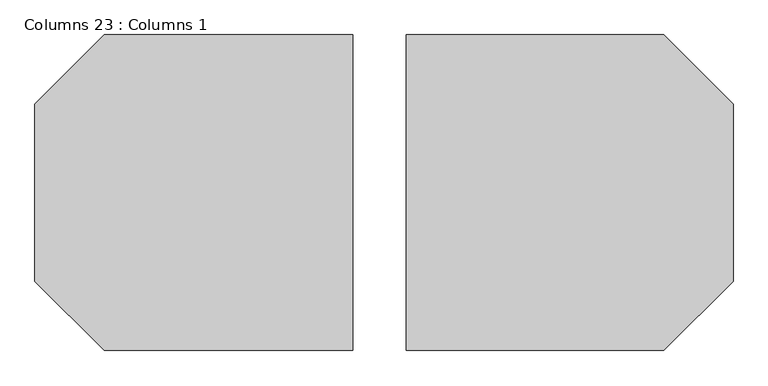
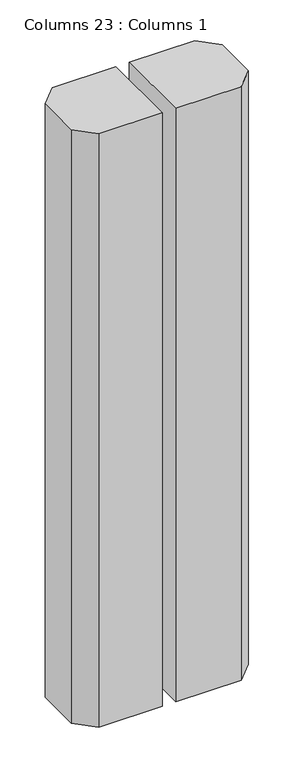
"""IFC4 building model written with IfcOpenShell, lengths in millimetres: column geometry, Columns 23 : Columns 1."""

from ifc_helpers import new_model, si_unit, origin, origin_with_axes, place, context, project, spatial, polyline, outline, extrude, source, transform, mapped, element, save


def columns_23_columns_1_dc9aa2cf(model_context):
    return source(origin(), model_context, "Body", "SweptSolid", [
        extrude(outline(polyline([(-18005.8288561, 111148.0037716), (-18361.4288561, 111148.0037716), (-18460.2116734, 111246.7865889), (-18460.2116734, 111500.7865889), (-18361.4288561, 111599.5694063), (-18005.8288561, 111599.5694063), (-18005.8288561, 111148.0037716)])), origin_with_axes(), (0.0, 0.0, 1.0), 3529.207176),
        extrude(outline(polyline([(-17462.5460387, 111246.7865889), (-17561.3288561, 111148.0037716), (-17929.6288561, 111148.0037716), (-17929.6288561, 111599.5694063), (-17561.3288561, 111599.5694063), (-17462.5460387, 111500.7865889), (-17462.5460387, 111246.7865889)])), origin_with_axes(), (0.0, 0.0, 1.0), 3529.207176),
    ])


if __name__ == "__main__":
    model = new_model("IFC4")
    model_context = context("Model", 3, world=origin())
    ifc_project = project(units=[si_unit("LENGTHUNIT", "METRE", prefix="MILLI")], contexts=[model_context])
    site = spatial("IfcSite", under=ifc_project)
    building = spatial("IfcBuilding", under=site)
    placement = place(None, origin())
    columns_23_columns_1_shape = columns_23_columns_1_dc9aa2cf(model_context)
    element("IfcColumn", 1, ObjectType="Columns 23 : Columns 1", at=placement, inside=building, context=model_context, shape_type="MappedRepresentation", body=[
        mapped(columns_23_columns_1_shape, transform((0.0, 0.0, 0.0), x_axis=(1.0, 0.0, 0.0), y_axis=(0.0, 1.0, 0.0), z_axis=(0.0, 0.0, 1.0))),
    ])
    save(model, "model.ifc")
